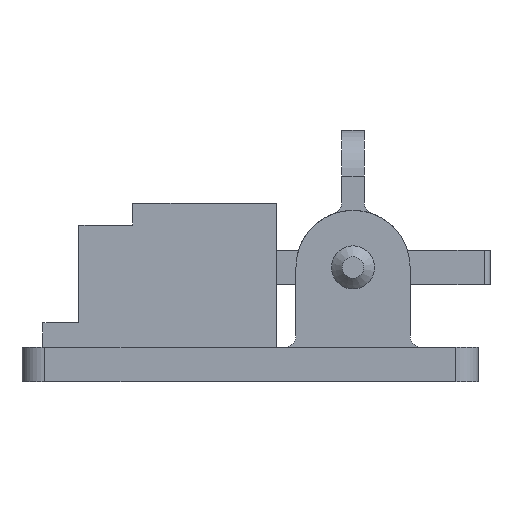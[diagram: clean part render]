
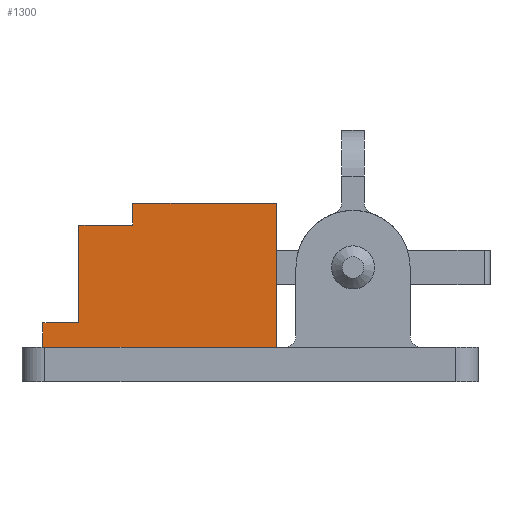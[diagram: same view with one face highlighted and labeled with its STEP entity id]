
A CAD part, left-side view. The second image highlights one B-rep face of the part: STEP entity #1300.
In plain terms, the highlighted planar face has unit normal (-1, 0, 0).
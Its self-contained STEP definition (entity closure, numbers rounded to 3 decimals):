
#86=LINE('',#2120,#178);
#89=LINE('',#2126,#181);
#92=LINE('',#2132,#184);
#95=LINE('',#2138,#187);
#98=LINE('',#2144,#190);
#101=LINE('',#2150,#193);
#104=LINE('',#2156,#196);
#107=LINE('',#2160,#199);
#178=VECTOR('',#1777,10.);
#181=VECTOR('',#1782,10.);
#184=VECTOR('',#1787,10.);
#187=VECTOR('',#1792,10.);
#190=VECTOR('',#1797,10.);
#193=VECTOR('',#1802,10.);
#196=VECTOR('',#1807,10.);
#199=VECTOR('',#1812,10.);
#235=PLANE('',#1447);
#382=FACE_OUTER_BOUND('',#498,.T.);
#498=EDGE_LOOP('',(#1148,#1149,#1150,#1151,#1152,#1153,#1154,#1155));
#670=VERTEX_POINT('',#2117);
#671=VERTEX_POINT('',#2119);
#673=VERTEX_POINT('',#2125);
#675=VERTEX_POINT('',#2131);
#677=VERTEX_POINT('',#2137);
#679=VERTEX_POINT('',#2143);
#681=VERTEX_POINT('',#2149);
#683=VERTEX_POINT('',#2155);
#822=EDGE_CURVE('',#671,#670,#86,.T.);
#825=EDGE_CURVE('',#673,#671,#89,.T.);
#828=EDGE_CURVE('',#675,#673,#92,.T.);
#831=EDGE_CURVE('',#677,#675,#95,.T.);
#834=EDGE_CURVE('',#679,#677,#98,.T.);
#837=EDGE_CURVE('',#681,#679,#101,.T.);
#840=EDGE_CURVE('',#683,#681,#104,.T.);
#843=EDGE_CURVE('',#670,#683,#107,.T.);
#1148=ORIENTED_EDGE('',*,*,#843,.T.);
#1149=ORIENTED_EDGE('',*,*,#840,.T.);
#1150=ORIENTED_EDGE('',*,*,#837,.T.);
#1151=ORIENTED_EDGE('',*,*,#834,.T.);
#1152=ORIENTED_EDGE('',*,*,#831,.T.);
#1153=ORIENTED_EDGE('',*,*,#828,.T.);
#1154=ORIENTED_EDGE('',*,*,#825,.T.);
#1155=ORIENTED_EDGE('',*,*,#822,.T.);
#1300=ADVANCED_FACE('',(#382),#235,.T.);
#1447=AXIS2_PLACEMENT_3D('',#2161,#1813,#1814);
#1777=DIRECTION('',(0.,0.,-1.));
#1782=DIRECTION('',(0.,1.,0.));
#1787=DIRECTION('',(0.,0.,-1.));
#1792=DIRECTION('',(0.,1.,0.));
#1797=DIRECTION('',(0.,0.,-1.));
#1802=DIRECTION('',(0.,1.,0.));
#1807=DIRECTION('',(0.,0.,1.));
#1812=DIRECTION('',(0.,-1.,0.));
#1813=DIRECTION('center_axis',(-1.,0.,0.));
#1814=DIRECTION('ref_axis',(0.,-1.,0.));
#2117=CARTESIAN_POINT('',(-21.972,57.68,9.525));
#2119=CARTESIAN_POINT('',(-21.972,57.68,16.345));
#2120=CARTESIAN_POINT('',(-21.972,57.68,16.345));
#2125=CARTESIAN_POINT('',(-21.973,47.672,16.345));
#2126=CARTESIAN_POINT('',(-21.973,47.672,16.345));
#2131=CARTESIAN_POINT('',(-21.973,47.672,43.536));
#2132=CARTESIAN_POINT('',(-21.973,47.672,43.536));
#2137=CARTESIAN_POINT('',(-21.973,32.686,43.536));
#2138=CARTESIAN_POINT('',(-21.973,32.686,43.536));
#2143=CARTESIAN_POINT('',(-21.973,32.686,49.53));
#2144=CARTESIAN_POINT('',(-21.973,32.686,49.53));
#2149=CARTESIAN_POINT('',(-21.973,-7.32,49.53));
#2150=CARTESIAN_POINT('',(-21.973,-7.32,49.53));
#2155=CARTESIAN_POINT('',(-21.973,-7.32,9.525));
#2156=CARTESIAN_POINT('',(-21.973,-7.32,9.525));
#2160=CARTESIAN_POINT('',(-21.972,57.68,9.525));
#2161=CARTESIAN_POINT('Origin',(-21.973,23.171,27.518));
